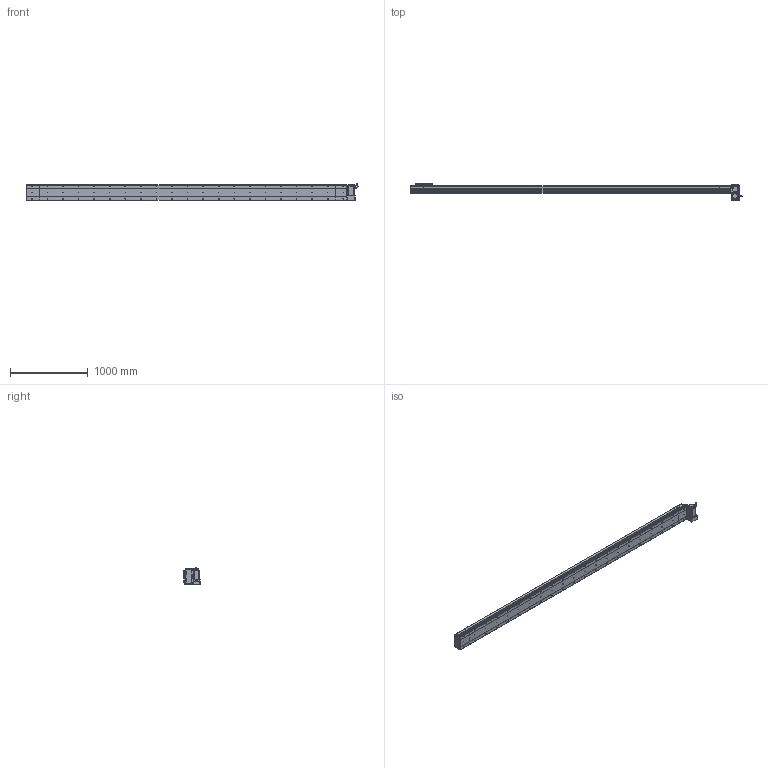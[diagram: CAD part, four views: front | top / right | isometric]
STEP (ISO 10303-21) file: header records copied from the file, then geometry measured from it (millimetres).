
FILE_DESCRIPTION (( 'STEP AP214' ), '1' );
FILE_NAME ('D20 CBH RU S3800.STEP', '2010-06-30T11:09:31', ( 'Conseil Régional Haute-Normandie' ), ( 'Conseil Régional Haute-Normandie' ), 'SwSTEP 2.0', 'SolidWorks 2010', '' );
FILE_SCHEMA (( 'AUTOMOTIVE_DESIGN' ));
Length unit declared in the file: millimetre
Products named in the file (31): Plaque de Bout Tail D20_Default; Couvercle_Default; Tail D20_Default; Glissiere_Default; Corp Tail D20_Default; Chariot D20_Default; Support Chariot D20_Default; vis M5 L47_Default; ecrou_Default; vis M5 L30_Default; Couvercle S3800_Default; Corp S3800_Default; Corp D20 S3800_Default; Conecteur_Default; Conecteur2_Default; codeur 90BLDC125-640; Plaque De Serrage D20_Default; corps 90BLDC125A-640; vis M5 L15_Default; D20 CBH RU S3800; Support moteur RU_Default; Plaque de Bout Head D20 RU_Default; Head RU_Default; Corp Tail D20 RU_Default; Couvercle RU_Default; Plaque De Serrage D20 RU_Default; Cache Support Moteur RU_Default; Moteur motionking 90BLDC125A-640; avant 90BLDC125A-640; Rondelle Cache D20 RU_Default
Assembly tree (66 placements, depth 4):
  D20 CBH RU S3800
    Tail D20_Default
      vis M5 L15_Default  x6
      Couvercle_Default
      Plaque De Serrage D20_Default
      Corp Tail D20_Default
      Plaque de Bout Tail D20_Default
    Head RU_Default
      vis M5 L15_Default  x12
      Rondelle Cache D20 RU_Default  x3
      Plaque de Bout Head D20 RU_Default
      vis M5 L30_Default  x4
      Cache Support Moteur RU_Default
      ecrou_Default  x4
      vis M5 L47_Default  x4
      Support moteur RU_Default
      Couvercle RU_Default
      Plaque De Serrage D20 RU_Default
      Corp Tail D20 RU_Default
      Moteur motionking 90BLDC125A-640
        avant 90BLDC125A-640
        Conecteur2_Default
        codeur 90BLDC125-640
        corps 90BLDC125A-640
        Conecteur_Default
    Corp D20 S3800_Default
      Couvercle S3800_Default
      Corp S3800_Default
    Chariot D20_Default
      vis M5 L15_Default  x8
      Chariot D20_Default
      Support Chariot D20_Default
      Glissiere_Default
Bounding box: 4264.45 x 209 x 229.7 mm (x, y, z)
Volume: 28295340.5 mm3; surface area: 5398902.9 mm2
Topology: 103 solids, 103 shells, 3850 faces, 9560 edges, 6214 vertices
Faces by surface type: plane 2123, bspline 806, cylinder 758, torus 91, cone 68, sphere 4
Entity records: 161566 total; most frequent: CARTESIAN_POINT 82662, ORIENTED_EDGE 15588, DIRECTION 12042, EDGE_CURVE 7794, VERTEX_POINT 5158, VECTOR 4990, LINE 4990, AXIS2_PLACEMENT_3D 3526
